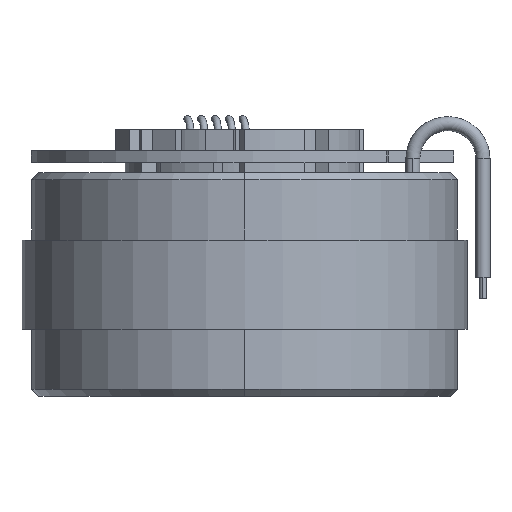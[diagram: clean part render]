
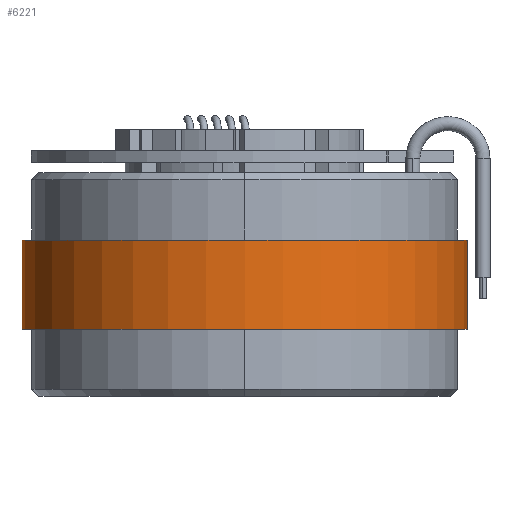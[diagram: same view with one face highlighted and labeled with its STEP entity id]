
A CAD part, left-side view. The second image highlights one B-rep face of the part: STEP entity #6221.
In plain terms, the highlighted cylindrical face has radius 31.75 mm (diameter 63.5 mm), a partial arc.
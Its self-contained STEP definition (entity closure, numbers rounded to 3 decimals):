
#1=CARTESIAN_POINT('',(0.,0.,0.));
#2=DIRECTION('',(0.,0.,-1.));
#3=DIRECTION('',(0.,-1.,0.));
#4=AXIS2_PLACEMENT_3D('',#1,#2,#3);
#1334=DIRECTION('',(0.,0.,1.));
#1335=VECTOR('',#1334,12.7);
#1336=CARTESIAN_POINT('',(0.,-31.75,0.));
#1337=LINE('',#1336,#1335);
#1338=DIRECTION('',(0.,0.,1.));
#1339=VECTOR('',#1338,12.7);
#1340=CARTESIAN_POINT('',(0.,31.75,0.));
#1341=LINE('',#1340,#1339);
#1342=CARTESIAN_POINT('',(0.,0.,12.7));
#1343=DIRECTION('',(0.,0.,-1.));
#1344=DIRECTION('',(0.,-1.,0.));
#1345=AXIS2_PLACEMENT_3D('',#1342,#1343,#1344);
#4241=CARTESIAN_POINT('',(0.,-31.75,0.));
#4242=CARTESIAN_POINT('',(0.,31.75,0.));
#4243=VERTEX_POINT('',#4241);
#4244=VERTEX_POINT('',#4242);
#4245=CARTESIAN_POINT('',(0.,-31.75,12.7));
#4246=CARTESIAN_POINT('',(0.,31.75,12.7));
#4247=VERTEX_POINT('',#4245);
#4248=VERTEX_POINT('',#4246);
#6207=CARTESIAN_POINT('',(0.,0.,0.));
#6208=DIRECTION('',(0.,0.,-1.));
#6209=DIRECTION('',(0.,-1.,0.));
#6210=AXIS2_PLACEMENT_3D('',#6207,#6208,#6209);
#6211=CYLINDRICAL_SURFACE('',#6210,31.75);
#6212=ORIENTED_EDGE('',*,*,#5550,.T.);
#6214=ORIENTED_EDGE('',*,*,#6213,.T.);
#6216=ORIENTED_EDGE('',*,*,#6215,.F.);
#6218=ORIENTED_EDGE('',*,*,#6217,.F.);
#6219=EDGE_LOOP('',(#6212,#6214,#6216,#6218));
#6220=FACE_OUTER_BOUND('',#6219,.F.);
#6221=ADVANCED_FACE('',(#6220),#6211,.T.);
#5=CIRCLE('',#4,31.75);
#1346=CIRCLE('',#1345,31.75);
#5550=EDGE_CURVE('',#4243,#4244,#5,.T.);
#6213=EDGE_CURVE('',#4244,#4248,#1341,.T.);
#6215=EDGE_CURVE('',#4247,#4248,#1346,.T.);
#6217=EDGE_CURVE('',#4243,#4247,#1337,.T.);
